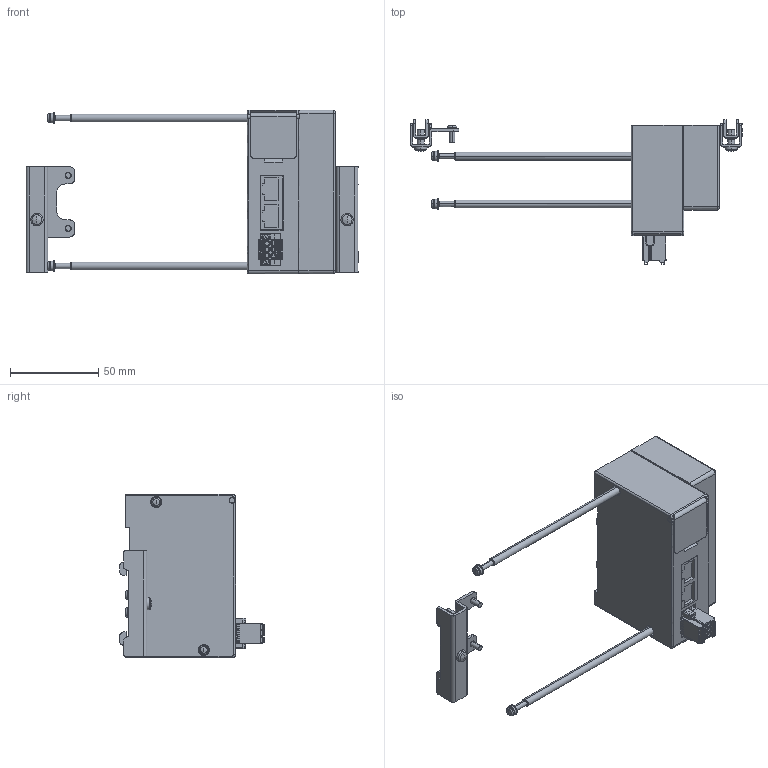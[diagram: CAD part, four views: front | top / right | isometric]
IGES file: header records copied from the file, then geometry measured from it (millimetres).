
Start section: ------------------------------------------------------------------------
Bounding box: 188.5 x 82.1 x 93 mm (x, y, z)
Volume: 267054.4 mm3; surface area: 48168.2 mm2
Topology: 3 solids, 3 shells, 971 faces, 2541 edges, 1629 vertices
Faces by surface type: bspline 971
